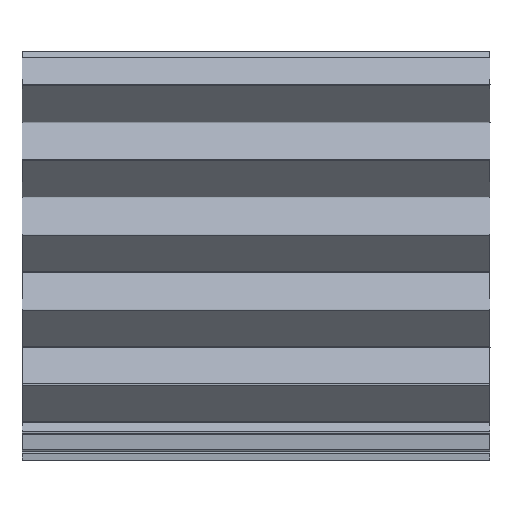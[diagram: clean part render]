
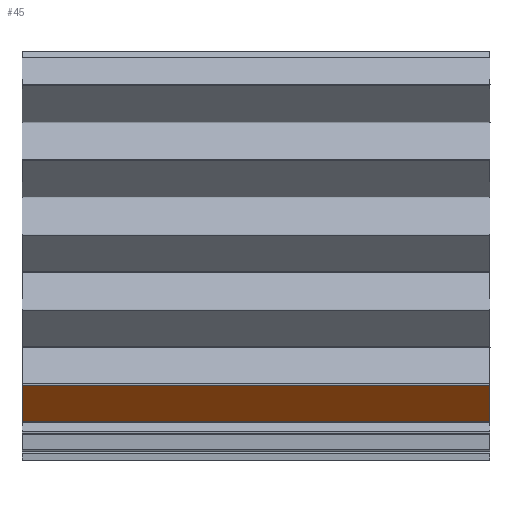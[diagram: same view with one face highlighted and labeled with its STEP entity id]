
A CAD part, top view. The second image highlights one B-rep face of the part: STEP entity #45.
In plain terms, the highlighted planar face has unit normal (0, -0.676, 0.737).
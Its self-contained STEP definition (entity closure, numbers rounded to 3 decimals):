
#45=ADVANCED_FACE('',(#119),#1301,.T.);
#119=FACE_OUTER_BOUND('',#193,.T.);
#193=EDGE_LOOP('',(#398,#399,#400,#401));
#398=ORIENTED_EDGE('',*,*,#741,.T.);
#399=ORIENTED_EDGE('',*,*,#742,.T.);
#400=ORIENTED_EDGE('',*,*,#743,.T.);
#401=ORIENTED_EDGE('',*,*,#739,.T.);
#739=EDGE_CURVE('',#1132,#1202,#1008,.T.);
#741=EDGE_CURVE('',#1202,#1203,#1009,.T.);
#742=EDGE_CURVE('',#1203,#1133,#1010,.T.);
#743=EDGE_CURVE('',#1133,#1132,#1011,.T.);
#1008=B_SPLINE_CURVE_WITH_KNOTS('',1,(#2409,#2410),.UNSPECIFIED.,.F.,.F.,
(2,2),(0.,250.),.UNSPECIFIED.);
#1009=B_SPLINE_CURVE_WITH_KNOTS('',1,(#2414,#2415),.UNSPECIFIED.,.F.,.F.,
(2,2),(0.,26.211),.UNSPECIFIED.);
#1010=B_SPLINE_CURVE_WITH_KNOTS('',1,(#2416,#2417),.UNSPECIFIED.,.F.,.F.,
(2,2),(-250.,0.),.UNSPECIFIED.);
#1011=B_SPLINE_CURVE_WITH_KNOTS('',1,(#2418,#2419),.UNSPECIFIED.,.F.,.F.,
(2,2),(0.,26.211),.UNSPECIFIED.);
#1132=VERTEX_POINT('',#2138);
#1133=VERTEX_POINT('',#2139);
#1202=VERTEX_POINT('',#2208);
#1203=VERTEX_POINT('',#2209);
#1301=PLANE('',#1359);
#1359=AXIS2_PLACEMENT_3D('',#1621,#1400,$);
#1400=DIRECTION('',(0.,-0.676,0.737));
#1621=CARTESIAN_POINT('',(-150.12,19.078,1.936));
#2138=CARTESIAN_POINT('',(-125.,21.135,3.821));
#2139=CARTESIAN_POINT('',(-125.,40.46,21.528));
#2208=CARTESIAN_POINT('',(125.,21.135,3.821));
#2209=CARTESIAN_POINT('',(125.,40.46,21.528));
#2409=CARTESIAN_POINT('',(-125.,21.135,3.821));
#2410=CARTESIAN_POINT('',(125.,21.135,3.821));
#2414=CARTESIAN_POINT('',(125.,21.135,3.821));
#2415=CARTESIAN_POINT('',(125.,40.46,21.528));
#2416=CARTESIAN_POINT('',(125.,40.46,21.528));
#2417=CARTESIAN_POINT('',(-125.,40.46,21.528));
#2418=CARTESIAN_POINT('',(-125.,40.46,21.528));
#2419=CARTESIAN_POINT('',(-125.,21.135,3.821));
